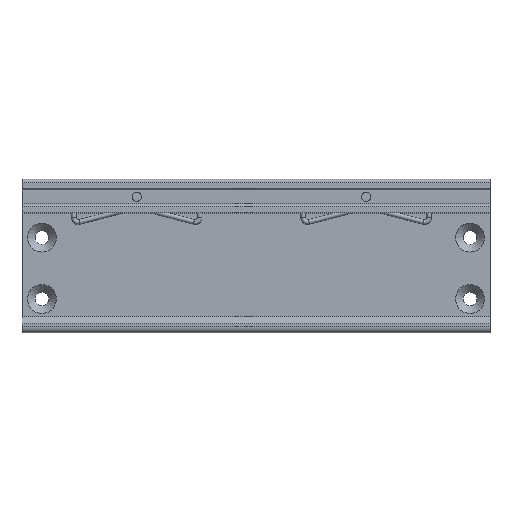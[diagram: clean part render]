
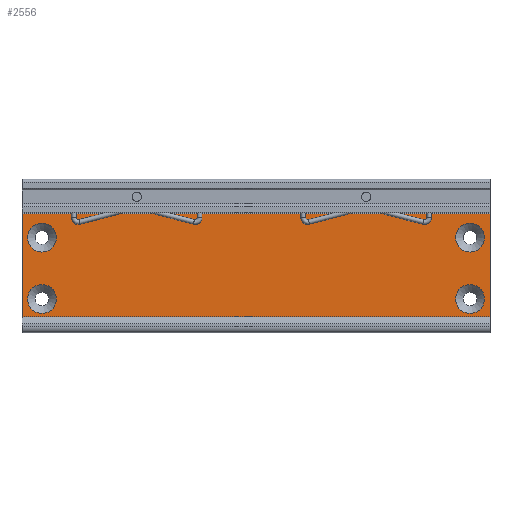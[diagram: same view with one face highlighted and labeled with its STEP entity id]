
A CAD part, top view. The second image highlights one B-rep face of the part: STEP entity #2556.
In plain terms, the highlighted planar face has unit normal (0, 0, 1).
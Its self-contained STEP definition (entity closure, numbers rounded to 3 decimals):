
#30 = DIRECTION ( 'NONE',  ( -1., 0., 0. ) ) ;
#45 = DIRECTION ( 'NONE',  ( 0., 0., 1. ) ) ;
#133 = CIRCLE ( 'NONE', #258, 4.7 ) ;
#139 = CARTESIAN_POINT ( 'NONE',  ( 76.2, 38.8, -4.5 ) ) ;
#202 = CARTESIAN_POINT ( 'NONE',  ( -69.7, 11., -4.5 ) ) ;
#214 = EDGE_LOOP ( 'NONE', ( #2554 ) ) ;
#227 = LINE ( 'NONE', #2412, #2163 ) ;
#258 = AXIS2_PLACEMENT_3D ( 'NONE', #202, #709, #2464 ) ;
#432 = EDGE_CURVE ( 'NONE', #1079, #2451, #1467, .T. ) ;
#541 = CARTESIAN_POINT ( 'NONE',  ( -76.2, 38.8, -4.5 ) ) ;
#549 = EDGE_LOOP ( 'NONE', ( #1976, #1431, #2135, #1031 ) ) ;
#623 = LINE ( 'NONE', #1655, #1908 ) ;
#657 = AXIS2_PLACEMENT_3D ( 'NONE', #1844, #45, #1588 ) ;
#709 = DIRECTION ( 'NONE',  ( 0., 0., 1. ) ) ;
#738 = CARTESIAN_POINT ( 'NONE',  ( -65., 31., -4.5 ) ) ;
#739 = EDGE_CURVE ( 'NONE', #2482, #2451, #961, .T. ) ;
#792 = CARTESIAN_POINT ( 'NONE',  ( -76.2, 38.8, -4.5 ) ) ;
#814 = CARTESIAN_POINT ( 'NONE',  ( 74.4, 31., -4.5 ) ) ;
#820 = DIRECTION ( 'NONE',  ( 0., -1., 0. ) ) ;
#838 = ORIENTED_EDGE ( 'NONE', *, *, #2735, .F. ) ;
#868 = FACE_OUTER_BOUND ( 'NONE', #549, .T. ) ;
#956 = VERTEX_POINT ( 'NONE', #2960 ) ;
#961 = LINE ( 'NONE', #3056, #2879 ) ;
#975 = DIRECTION ( 'NONE',  ( 0., -1., 0. ) ) ;
#992 = DIRECTION ( 'NONE',  ( 1., 0., 0. ) ) ;
#1015 = VERTEX_POINT ( 'NONE', #814 ) ;
#1019 = EDGE_CURVE ( 'NONE', #1944, #1944, #2875, .T. ) ;
#1031 = ORIENTED_EDGE ( 'NONE', *, *, #1834, .T. ) ;
#1072 = DIRECTION ( 'NONE',  ( 1., 0., 0. ) ) ;
#1079 = VERTEX_POINT ( 'NONE', #541 ) ;
#1174 = VECTOR ( 'NONE', #820, 1000. ) ;
#1211 = CARTESIAN_POINT ( 'NONE',  ( 74.4, 11., -4.5 ) ) ;
#1248 = CARTESIAN_POINT ( 'NONE',  ( 69.7, 31., -4.5 ) ) ;
#1430 = PLANE ( 'NONE',  #1469 ) ;
#1431 = ORIENTED_EDGE ( 'NONE', *, *, #739, .F. ) ;
#1445 = CARTESIAN_POINT ( 'NONE',  ( 76.2, 4.921, -4.5 ) ) ;
#1467 = LINE ( 'NONE', #792, #1174 ) ;
#1469 = AXIS2_PLACEMENT_3D ( 'NONE', #139, #1683, #3170 ) ;
#1536 = FACE_BOUND ( 'NONE', #2173, .T. ) ;
#1554 = CARTESIAN_POINT ( 'NONE',  ( -76.2, 4.921, -4.5 ) ) ;
#1588 = DIRECTION ( 'NONE',  ( 1., 0., 0. ) ) ;
#1628 = VERTEX_POINT ( 'NONE', #3140 ) ;
#1629 = FACE_BOUND ( 'NONE', #214, .T. ) ;
#1655 = CARTESIAN_POINT ( 'NONE',  ( 76.2, 38.8, -4.5 ) ) ;
#1682 = ORIENTED_EDGE ( 'NONE', *, *, #1019, .F. ) ;
#1683 = DIRECTION ( 'NONE',  ( 0., 0., -1. ) ) ;
#1834 = EDGE_CURVE ( 'NONE', #1628, #1079, #227, .T. ) ;
#1844 = CARTESIAN_POINT ( 'NONE',  ( -69.7, 31., -4.5 ) ) ;
#1908 = VECTOR ( 'NONE', #975, 1000. ) ;
#1910 = ORIENTED_EDGE ( 'NONE', *, *, #3046, .F. ) ;
#1944 = VERTEX_POINT ( 'NONE', #738 ) ;
#1976 = ORIENTED_EDGE ( 'NONE', *, *, #432, .T. ) ;
#2079 = AXIS2_PLACEMENT_3D ( 'NONE', #2592, #3089, #1072 ) ;
#2135 = ORIENTED_EDGE ( 'NONE', *, *, #3222, .F. ) ;
#2162 = CIRCLE ( 'NONE', #2079, 4.7 ) ;
#2163 = VECTOR ( 'NONE', #30, 1000. ) ;
#2173 = EDGE_LOOP ( 'NONE', ( #1682 ) ) ;
#2272 = FACE_BOUND ( 'NONE', #2861, .T. ) ;
#2412 = CARTESIAN_POINT ( 'NONE',  ( 76.2, 38.8, -4.5 ) ) ;
#2451 = VERTEX_POINT ( 'NONE', #1554 ) ;
#2464 = DIRECTION ( 'NONE',  ( 1., 0., 0. ) ) ;
#2482 = VERTEX_POINT ( 'NONE', #1445 ) ;
#2504 = EDGE_LOOP ( 'NONE', ( #1910 ) ) ;
#2554 = ORIENTED_EDGE ( 'NONE', *, *, #2858, .F. ) ;
#2556 = ADVANCED_FACE ( 'NONE', ( #1629, #2272, #2866, #1536, #868 ), #1430, .F. ) ;
#2592 = CARTESIAN_POINT ( 'NONE',  ( 69.7, 11., -4.5 ) ) ;
#2597 = CIRCLE ( 'NONE', #2965, 4.7 ) ;
#2735 = EDGE_CURVE ( 'NONE', #1015, #1015, #2597, .T. ) ;
#2745 = DIRECTION ( 'NONE',  ( 0., 0., 1. ) ) ;
#2858 = EDGE_CURVE ( 'NONE', #2944, #2944, #2162, .T. ) ;
#2861 = EDGE_LOOP ( 'NONE', ( #838 ) ) ;
#2866 = FACE_BOUND ( 'NONE', #2504, .T. ) ;
#2875 = CIRCLE ( 'NONE', #657, 4.7 ) ;
#2879 = VECTOR ( 'NONE', #3254, 1000. ) ;
#2944 = VERTEX_POINT ( 'NONE', #1211 ) ;
#2960 = CARTESIAN_POINT ( 'NONE',  ( -65., 11., -4.5 ) ) ;
#2965 = AXIS2_PLACEMENT_3D ( 'NONE', #1248, #2745, #992 ) ;
#3046 = EDGE_CURVE ( 'NONE', #956, #956, #133, .T. ) ;
#3056 = CARTESIAN_POINT ( 'NONE',  ( 76.2, 4.921, -4.5 ) ) ;
#3089 = DIRECTION ( 'NONE',  ( 0., 0., 1. ) ) ;
#3140 = CARTESIAN_POINT ( 'NONE',  ( 76.2, 38.8, -4.5 ) ) ;
#3170 = DIRECTION ( 'NONE',  ( 0., 1., 0. ) ) ;
#3222 = EDGE_CURVE ( 'NONE', #1628, #2482, #623, .T. ) ;
#3254 = DIRECTION ( 'NONE',  ( -1., 0., 0. ) ) ;
